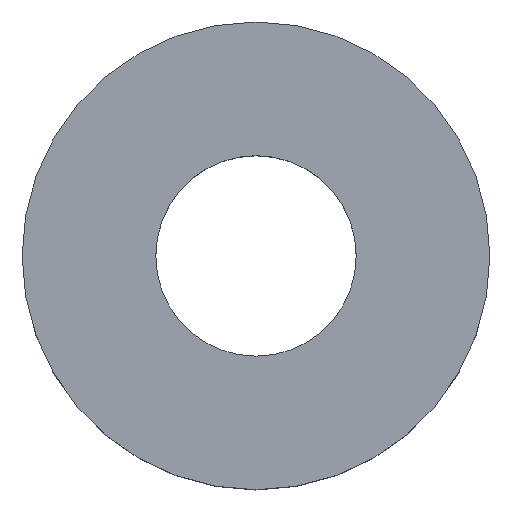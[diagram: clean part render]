
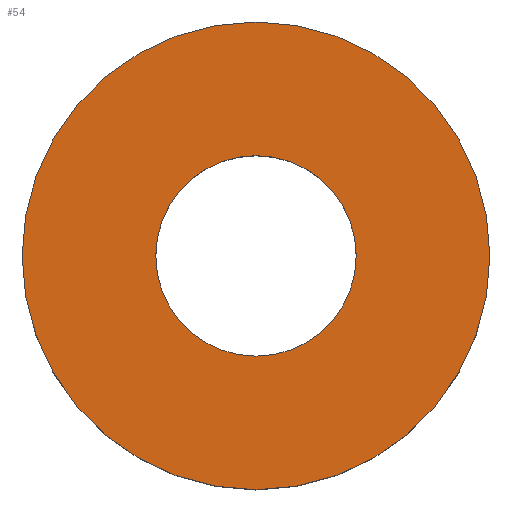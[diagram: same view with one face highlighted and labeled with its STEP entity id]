
A CAD part, top view. The second image highlights one B-rep face of the part: STEP entity #54.
In plain terms, the highlighted planar face has unit normal (0, 0, 1).
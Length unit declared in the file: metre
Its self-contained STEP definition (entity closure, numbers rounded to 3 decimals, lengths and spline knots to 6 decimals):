
#12=PLANE('',#75);
#18=ORIENTED_EDGE('',*,*,#22,.F.);
#19=ORIENTED_EDGE('',*,*,#24,.T.);
#22=EDGE_CURVE('',#26,#26,#30,.T.);
#24=EDGE_CURVE('',#28,#28,#32,.T.);
#26=VERTEX_POINT('',#98);
#28=VERTEX_POINT('',#103);
#30=CIRCLE('',#70,0.006);
#32=CIRCLE('',#73,0.014);
#38=EDGE_LOOP('',(#18));
#39=EDGE_LOOP('',(#19));
#46=FACE_BOUND('',#38,.T.);
#47=FACE_BOUND('',#39,.T.);
#54=ADVANCED_FACE('',(#46,#47),#12,.T.);
#70=AXIS2_PLACEMENT_3D('',#97,#81,#82);
#73=AXIS2_PLACEMENT_3D('',#102,#87,#88);
#75=AXIS2_PLACEMENT_3D('',#106,#91,#92);
#81=DIRECTION('',(0.,0.,1.));
#82=DIRECTION('',(1.,0.,0.));
#87=DIRECTION('',(0.,0.,1.));
#88=DIRECTION('',(1.,0.,0.));
#91=DIRECTION('',(0.,0.,1.));
#92=DIRECTION('',(1.,0.,0.));
#97=CARTESIAN_POINT('',(0.,0.,0.008));
#98=CARTESIAN_POINT('',(0.006,0.,0.008));
#102=CARTESIAN_POINT('',(0.,0.,0.008));
#103=CARTESIAN_POINT('',(0.014,0.,0.008));
#106=CARTESIAN_POINT('',(0.,0.,0.008));
